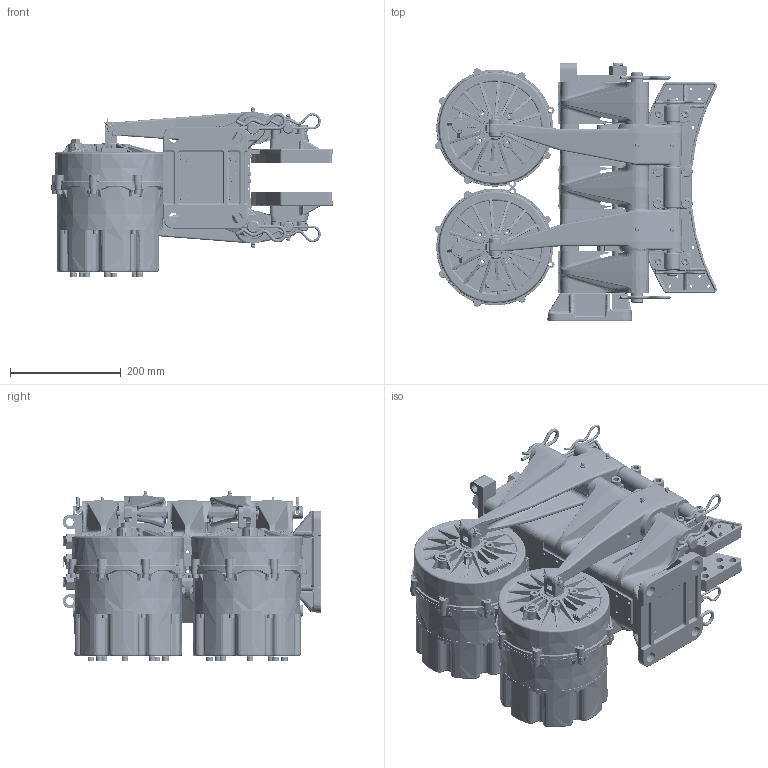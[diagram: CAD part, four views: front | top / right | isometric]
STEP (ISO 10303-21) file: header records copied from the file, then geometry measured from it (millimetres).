
FILE_DESCRIPTION (( 'STEP AP214' ), '1' );
FILE_NAME ('5027-SA-LH.STEP', '2021-01-29T23:41:41', ( '' ), ( '' ), 'SwSTEP 2.0', 'SolidWorks 2019', '' );
FILE_SCHEMA (( 'AUTOMOTIVE_DESIGN' ));
Length unit declared in the file: inch
Products named in the file (1): 5027-SA-LH
Bounding box: 509.56 x 466.98 x 306.47 mm (x, y, z)
Surface area: 1953530.3 mm2 (no closed solid volume)
Topology: 0 solids, 319 shells, 6158 faces, 20408 edges, 13856 vertices
Faces by surface type: cylinder 1830, plane 1522, bspline 1242, cone 929, torus 597, sphere 38
Entity records: 403415 total; most frequent: CARTESIAN_POINT 166218, ORIENTED_EDGE 31846, DIRECTION 30044, EDGE_CURVE 20288, VERTEX_POINT 13856, AXIS2_PLACEMENT_3D 12167, CIRCLE 7250, EDGE_LOOP 6823
